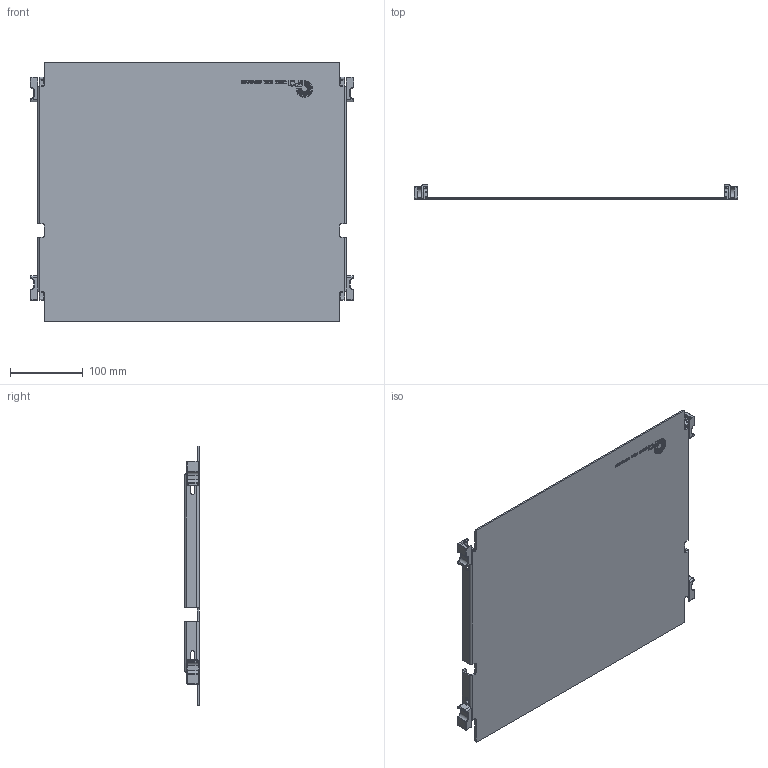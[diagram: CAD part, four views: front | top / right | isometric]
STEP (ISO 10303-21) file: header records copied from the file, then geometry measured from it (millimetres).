
FILE_DESCRIPTION (( 'STEP AP203' ), '1' );
FILE_NAME ('Part1^410114298.STEP', '2019-10-09T17:28:06', ( '' ), ( '' ), 'SwSTEP 2.0', 'SolidWorks 2019', '' );
FILE_SCHEMA (( 'CONFIG_CONTROL_DESIGN' ));
Products named in the file (1): Part1^410114298
Bounding box: 446.02 x 20.19 x 358.14 mm (x, y, z)
Volume: 389403.5 mm3; surface area: 343965.5 mm2
Topology: 1 solids, 3 shells, 2548 faces, 6809 edges, 4407 vertices
Faces by surface type: plane 1680, cylinder 459, bspline 273, torus 96, sphere 24, cone 16
Full cylindrical faces by diameter (mm): 2.286 x8, 4.699 x8, 4.724 x8, 4.763 x8, 9.525 x4
Entity records: 90006 total; most frequent: CARTESIAN_POINT 27774, ORIENTED_EDGE 13414, DIRECTION 11809, EDGE_CURVE 6707, LINE 5065, VECTOR 5065, VERTEX_POINT 4389, AXIS2_PLACEMENT_3D 3372
